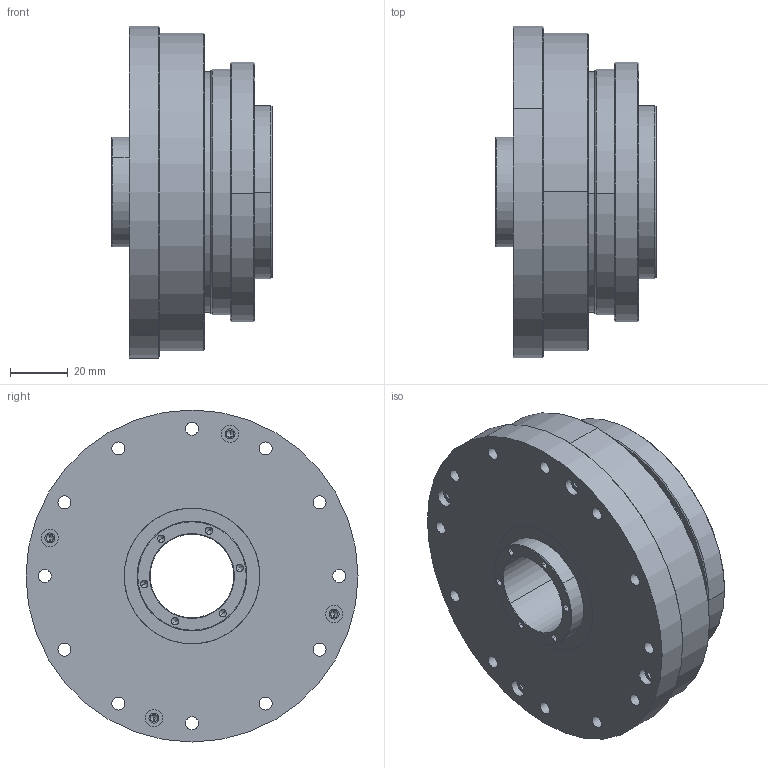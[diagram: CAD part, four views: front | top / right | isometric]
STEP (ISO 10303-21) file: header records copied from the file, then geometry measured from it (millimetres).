
FILE_DESCRIPTION (( 'STEP AP214' ), '1' );
FILE_NAME ('SHF-25-II.STEP', '2021-07-04T03:31:50', ( 'PC' ), ( 'Microsoft' ), 'SwSTEP 2.0', 'SolidWorks 2016', '' );
FILE_SCHEMA (( 'AUTOMOTIVE_DESIGN' ));
Length unit declared in the file: millimetre
Products named in the file (21): 楊擘1; 25柔性轴承; 蝠脫粣創-STRU-25-110-200X朴110-V1; hexagon socket head cap screws gb_GB_FASTENER_SCREWS_HSHCS M2.5X8-C; 25眄璃; 交叉轴承隔块-25-110-反向-V0; 蝠脫粣創路輸-25-110-V0; O形密封圈-Φ90XΦ18; 蝠脫粣創-蚐猾-STRU-25-110; 蝠脫粣創-幗赽-朴6; 交叉轴承-内圈-STRU-25-110-宽200-V1; 交叉轴承-外圈-STRU-25-110-宽200; Oﾐﾎﾃﾜｷ篳ｦ-ｦｵ71Xｦｵ1.5; 芧謫-STXB-25-80; SHF-25-II; 英制柔轮-STXB-25080; 荎秶試謫-STXB-25080; circlips for holes--type a gb_GB_CONNECTING_PIECE_RING_RRH 52; 蚐猾38X47X7; 楊擘2; deep groove ball bearings gb_Rolling bearings 61808 GB 276-94
Assembly tree (92 placements, depth 3):
  SHF-25-II
    蝠脫粣創-STRU-25-110-200X朴110-V1
      交叉轴承-外圈-STRU-25-110-宽200
      交叉轴承-内圈-STRU-25-110-宽200-V1
      蝠脫粣創-幗赽-朴6  x36
      蝠脫粣創-蚐猾-STRU-25-110
      O形密封圈-Φ90XΦ18
      蝠脫粣創路輸-25-110-V0  x18
      交叉轴承隔块-25-110-反向-V0  x18
      25眄璃
      hexagon socket head cap screws gb_GB_FASTENER_SCREWS_HSHCS M2.5X8-C
    25柔性轴承
    楊擘1
    deep groove ball bearings gb_Rolling bearings 61808 GB 276-94  x2
    楊擘2
    蚐猾38X47X7  x2
    circlips for holes--type a gb_GB_CONNECTING_PIECE_RING_RRH 52
    荎秶試謫-STXB-25080
    英制柔轮-STXB-25080
    芧謫-STXB-25-80
    Oﾐﾎﾃﾜｷ篳ｦ-ｦｵ71Xｦｵ1.5  x2
Bounding box: 55.5 x 115 x 115 mm (x, y, z)
Volume: 273053 mm3; surface area: 193717.8 mm2
Topology: 91 solids, 91 shells, 1863 faces, 5790 edges, 3757 vertices
Faces by surface type: cylinder 581, plane 405, torus 348, cone 335, sphere 188, bspline 6
Entity records: 41707 total; most frequent: CARTESIAN_POINT 12245, DIRECTION 5923, ORIENTED_EDGE 5766, EDGE_CURVE 2883, AXIS2_PLACEMENT_3D 2623, VERTEX_POINT 1884, CIRCLE 1504, EDGE_LOOP 1315
